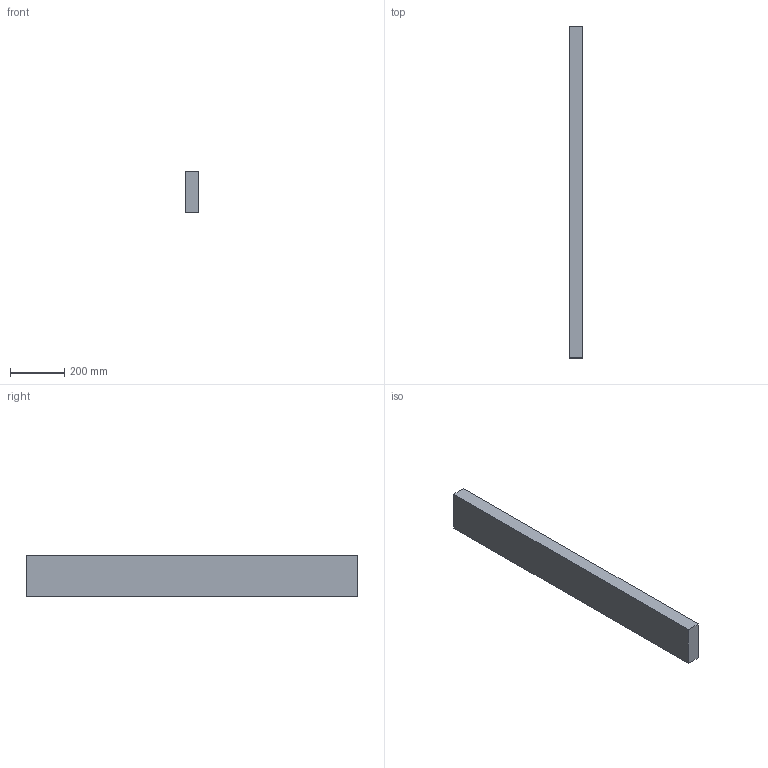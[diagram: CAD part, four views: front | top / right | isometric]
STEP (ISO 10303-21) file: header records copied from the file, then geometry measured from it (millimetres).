
FILE_DESCRIPTION(/* description */ (''),/* implementation_level */ '2;1');
FILE_NAME(/* name */ 'SM_Baffle2x6x48',/* time_stamp */ '2024-10-15T11:56:58-05:00',/* author */ (''),/* organization */ (''),/* preprocessor_version */ 'ST-DEVELOPER v19.2',/* originating_system */ 'Rhino 8.4',/* authorisation */ '');
FILE_SCHEMA (('CONFIG_CONTROL_DESIGN'));
Length unit declared in the file: inch
Products named in the file (1): Document
Bounding box: 50.8 x 1219.2 x 152.4 mm (x, y, z)
Volume: 9438948.9 mm3; surface area: 510966.7 mm2
Topology: 1 solids, 1 shells, 6 faces, 12 edges, 8 vertices
Faces by surface type: plane 6
Entity records: 226 total; most frequent: CARTESIAN_POINT 40, ORIENTED_EDGE 24, EDGE_CURVE 12, B_SPLINE_CURVE_WITH_KNOTS 12, DIRECTION 10, VERTEX_POINT 8, AXIS2_PLACEMENT_3D 8, ORGANIZATION 7
